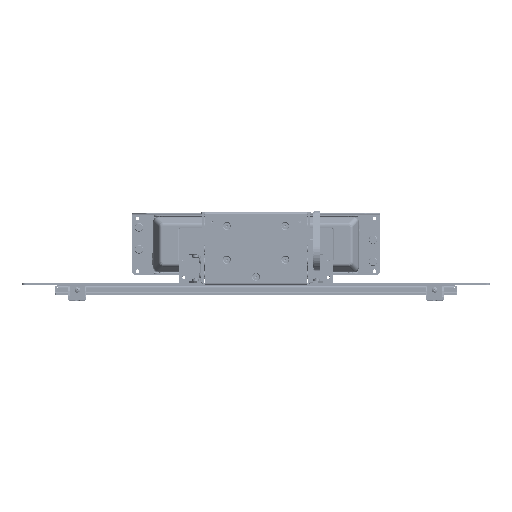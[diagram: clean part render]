
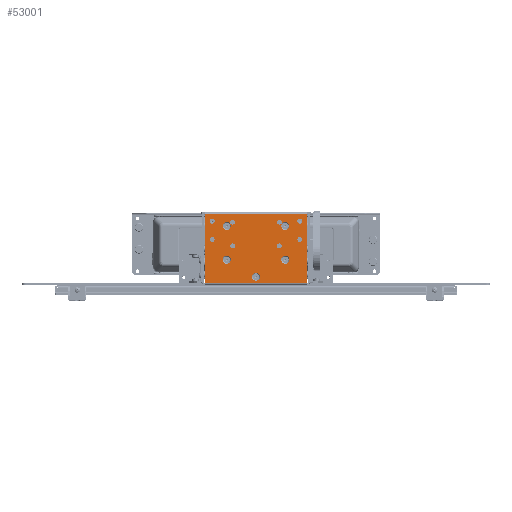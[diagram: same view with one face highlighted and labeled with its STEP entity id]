
A CAD part, top view. The second image highlights one B-rep face of the part: STEP entity #53001.
In plain terms, the highlighted planar face has unit normal (0, 0, 1) as drawn and (0, 1, 0) by its records, which use the part's own axes.
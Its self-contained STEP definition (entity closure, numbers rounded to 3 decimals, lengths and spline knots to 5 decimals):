
#3687=CIRCLE('',#61000,0.00437);
#3689=CIRCLE('',#61003,0.00437);
#3691=CIRCLE('',#61006,0.00437);
#3693=CIRCLE('',#61009,0.00437);
#3711=CIRCLE('',#61038,0.00697);
#3713=CIRCLE('',#61041,0.00697);
#3715=CIRCLE('',#61044,0.00697);
#3717=CIRCLE('',#61047,0.00697);
#3719=CIRCLE('',#61050,0.00697);
#3721=CIRCLE('',#61053,0.00369);
#3723=CIRCLE('',#61056,0.00369);
#3725=CIRCLE('',#61059,0.00369);
#3727=CIRCLE('',#61062,0.00369);
#8562=LINE('',#92897,#13232);
#8690=LINE('',#93438,#13360);
#8719=LINE('',#93508,#13389);
#8720=LINE('',#93509,#13390);
#13232=VECTOR('',#74330,1.);
#13360=VECTOR('',#74878,1.);
#13389=VECTOR('',#74963,1.);
#13390=VECTOR('',#74964,1.);
#26676=ORIENTED_EDGE('',*,*,#34688,.T.);
#26677=ORIENTED_EDGE('',*,*,#34969,.T.);
#26678=ORIENTED_EDGE('',*,*,#34931,.F.);
#26679=ORIENTED_EDGE('',*,*,#34970,.T.);
#26680=ORIENTED_EDGE('',*,*,#34691,.F.);
#26681=ORIENTED_EDGE('',*,*,#34693,.F.);
#26682=ORIENTED_EDGE('',*,*,#34695,.F.);
#26683=ORIENTED_EDGE('',*,*,#34697,.F.);
#26684=ORIENTED_EDGE('',*,*,#34723,.F.);
#26685=ORIENTED_EDGE('',*,*,#34725,.F.);
#26686=ORIENTED_EDGE('',*,*,#34727,.F.);
#26687=ORIENTED_EDGE('',*,*,#34729,.F.);
#26688=ORIENTED_EDGE('',*,*,#34731,.F.);
#26689=ORIENTED_EDGE('',*,*,#34733,.F.);
#26690=ORIENTED_EDGE('',*,*,#34735,.F.);
#26691=ORIENTED_EDGE('',*,*,#34737,.F.);
#26692=ORIENTED_EDGE('',*,*,#34739,.F.);
#34688=EDGE_CURVE('',#39921,#39922,#8562,.T.);
#34691=EDGE_CURVE('',#39923,#39923,#3687,.F.);
#34693=EDGE_CURVE('',#39925,#39925,#3689,.F.);
#34695=EDGE_CURVE('',#39927,#39927,#3691,.F.);
#34697=EDGE_CURVE('',#39929,#39929,#3693,.F.);
#34723=EDGE_CURVE('',#39955,#39955,#3711,.T.);
#34725=EDGE_CURVE('',#39957,#39957,#3713,.T.);
#34727=EDGE_CURVE('',#39959,#39959,#3715,.T.);
#34729=EDGE_CURVE('',#39961,#39961,#3717,.T.);
#34731=EDGE_CURVE('',#39963,#39963,#3719,.T.);
#34733=EDGE_CURVE('',#39965,#39965,#3721,.T.);
#34735=EDGE_CURVE('',#39967,#39967,#3723,.T.);
#34737=EDGE_CURVE('',#39969,#39969,#3725,.T.);
#34739=EDGE_CURVE('',#39971,#39971,#3727,.T.);
#34931=EDGE_CURVE('',#40123,#40124,#8690,.T.);
#34969=EDGE_CURVE('',#39922,#40124,#8719,.T.);
#34970=EDGE_CURVE('',#40123,#39921,#8720,.T.);
#39921=VERTEX_POINT('',#92898);
#39922=VERTEX_POINT('',#92899);
#39923=VERTEX_POINT('',#92904);
#39925=VERTEX_POINT('',#92909);
#39927=VERTEX_POINT('',#92914);
#39929=VERTEX_POINT('',#92919);
#39955=VERTEX_POINT('',#92982);
#39957=VERTEX_POINT('',#92987);
#39959=VERTEX_POINT('',#92992);
#39961=VERTEX_POINT('',#92997);
#39963=VERTEX_POINT('',#93002);
#39965=VERTEX_POINT('',#93007);
#39967=VERTEX_POINT('',#93012);
#39969=VERTEX_POINT('',#93017);
#39971=VERTEX_POINT('',#93022);
#40123=VERTEX_POINT('',#93437);
#40124=VERTEX_POINT('',#93439);
#44418=EDGE_LOOP('',(#26676,#26677,#26678,#26679));
#44419=EDGE_LOOP('',(#26680));
#44420=EDGE_LOOP('',(#26681));
#44421=EDGE_LOOP('',(#26682));
#44422=EDGE_LOOP('',(#26683));
#44423=EDGE_LOOP('',(#26684));
#44424=EDGE_LOOP('',(#26685));
#44425=EDGE_LOOP('',(#26686));
#44426=EDGE_LOOP('',(#26687));
#44427=EDGE_LOOP('',(#26688));
#44428=EDGE_LOOP('',(#26689));
#44429=EDGE_LOOP('',(#26690));
#44430=EDGE_LOOP('',(#26691));
#44431=EDGE_LOOP('',(#26692));
#48258=FACE_BOUND('',#44418,.T.);
#48259=FACE_BOUND('',#44419,.T.);
#48260=FACE_BOUND('',#44420,.T.);
#48261=FACE_BOUND('',#44421,.T.);
#48262=FACE_BOUND('',#44422,.T.);
#48263=FACE_BOUND('',#44423,.T.);
#48264=FACE_BOUND('',#44424,.T.);
#48265=FACE_BOUND('',#44425,.T.);
#48266=FACE_BOUND('',#44426,.T.);
#48267=FACE_BOUND('',#44427,.T.);
#48268=FACE_BOUND('',#44428,.T.);
#48269=FACE_BOUND('',#44429,.T.);
#48270=FACE_BOUND('',#44430,.T.);
#48271=FACE_BOUND('',#44431,.T.);
#50243=PLANE('',#61234);
#53001=ADVANCED_FACE('',(#48258,#48259,#48260,#48261,#48262,#48263,#48264,
#48265,#48266,#48267,#48268,#48269,#48270,#48271),#50243,.F.);
#61000=AXIS2_PLACEMENT_3D('',#92903,#74337,#74338);
#61003=AXIS2_PLACEMENT_3D('',#92908,#74343,#74344);
#61006=AXIS2_PLACEMENT_3D('',#92913,#74349,#74350);
#61009=AXIS2_PLACEMENT_3D('',#92918,#74355,#74356);
#61038=AXIS2_PLACEMENT_3D('',#92981,#74421,#74422);
#61041=AXIS2_PLACEMENT_3D('',#92986,#74427,#74428);
#61044=AXIS2_PLACEMENT_3D('',#92991,#74433,#74434);
#61047=AXIS2_PLACEMENT_3D('',#92996,#74439,#74440);
#61050=AXIS2_PLACEMENT_3D('',#93001,#74445,#74446);
#61053=AXIS2_PLACEMENT_3D('',#93006,#74451,#74452);
#61056=AXIS2_PLACEMENT_3D('',#93011,#74457,#74458);
#61059=AXIS2_PLACEMENT_3D('',#93016,#74463,#74464);
#61062=AXIS2_PLACEMENT_3D('',#93021,#74469,#74470);
#61234=AXIS2_PLACEMENT_3D('',#93507,#74961,#74962);
#74330=DIRECTION('',(-1.,0.,0.));
#74337=DIRECTION('',(0.,-1.,0.));
#74338=DIRECTION('',(0.,0.,-1.));
#74343=DIRECTION('',(0.,-1.,0.));
#74344=DIRECTION('',(0.,0.,-1.));
#74349=DIRECTION('',(0.,-1.,0.));
#74350=DIRECTION('',(0.,0.,-1.));
#74355=DIRECTION('',(0.,-1.,0.));
#74356=DIRECTION('',(0.,0.,-1.));
#74421=DIRECTION('',(0.,1.,0.));
#74422=DIRECTION('',(0.,0.,1.));
#74427=DIRECTION('',(0.,1.,0.));
#74428=DIRECTION('',(0.,0.,1.));
#74433=DIRECTION('',(0.,1.,0.));
#74434=DIRECTION('',(0.,0.,1.));
#74439=DIRECTION('',(0.,1.,0.));
#74440=DIRECTION('',(0.,0.,1.));
#74445=DIRECTION('',(0.,1.,0.));
#74446=DIRECTION('',(0.,0.,1.));
#74451=DIRECTION('',(0.,1.,0.));
#74452=DIRECTION('',(0.,0.,1.));
#74457=DIRECTION('',(0.,1.,0.));
#74458=DIRECTION('',(0.,0.,1.));
#74463=DIRECTION('',(0.,1.,0.));
#74464=DIRECTION('',(0.,0.,1.));
#74469=DIRECTION('',(0.,1.,0.));
#74470=DIRECTION('',(0.,0.,1.));
#74878=DIRECTION('',(-1.,0.,0.));
#74961=DIRECTION('',(0.,-1.,0.));
#74962=DIRECTION('',(0.,0.,-1.));
#74963=DIRECTION('',(0.,0.,1.));
#74964=DIRECTION('',(0.,0.,-1.));
#92897=CARTESIAN_POINT('',(0.089,0.,0.00397));
#92898=CARTESIAN_POINT('',(0.089,0.,0.00397));
#92899=CARTESIAN_POINT('',(-0.089,0.,0.00397));
#92903=CARTESIAN_POINT('',(0.0762,0.,0.01588));
#92904=CARTESIAN_POINT('',(0.0762,0.,0.01151));
#92908=CARTESIAN_POINT('',(-0.0762,0.,0.04763));
#92909=CARTESIAN_POINT('',(-0.0762,0.,0.04326));
#92913=CARTESIAN_POINT('',(0.0762,0.,0.04763));
#92914=CARTESIAN_POINT('',(0.0762,0.,0.04326));
#92918=CARTESIAN_POINT('',(-0.0762,0.,0.01588));
#92919=CARTESIAN_POINT('',(-0.0762,0.,0.01151));
#92981=CARTESIAN_POINT('',(0.05087,0.,0.08271));
#92982=CARTESIAN_POINT('',(0.05087,0.,0.08968));
#92986=CARTESIAN_POINT('',(-0.05087,0.,0.08271));
#92987=CARTESIAN_POINT('',(-0.05087,0.,0.08968));
#92991=CARTESIAN_POINT('',(0.05087,0.,0.02397));
#92992=CARTESIAN_POINT('',(0.05087,0.,0.03095));
#92996=CARTESIAN_POINT('',(-0.05087,0.,0.02397));
#92997=CARTESIAN_POINT('',(-0.05087,0.,0.03095));
#93001=CARTESIAN_POINT('',(0.,0.,0.11208));
#93002=CARTESIAN_POINT('',(0.,0.,0.11905));
#93006=CARTESIAN_POINT('',(0.04048,0.,0.05874));
#93007=CARTESIAN_POINT('',(0.04048,0.,0.06242));
#93011=CARTESIAN_POINT('',(-0.04048,0.,0.01746));
#93012=CARTESIAN_POINT('',(-0.04048,0.,0.02115));
#93016=CARTESIAN_POINT('',(-0.04048,0.,0.05874));
#93017=CARTESIAN_POINT('',(-0.04048,0.,0.06242));
#93021=CARTESIAN_POINT('',(0.04048,0.,0.01746));
#93022=CARTESIAN_POINT('',(0.04048,0.,0.02115));
#93437=CARTESIAN_POINT('',(0.089,0.,0.12303));
#93438=CARTESIAN_POINT('',(-0.089,0.,0.12303));
#93439=CARTESIAN_POINT('',(-0.089,0.,0.12303));
#93507=CARTESIAN_POINT('',(0.,0.,0.));
#93508=CARTESIAN_POINT('',(-0.089,0.,0.));
#93509=CARTESIAN_POINT('',(0.089,0.,0.));
